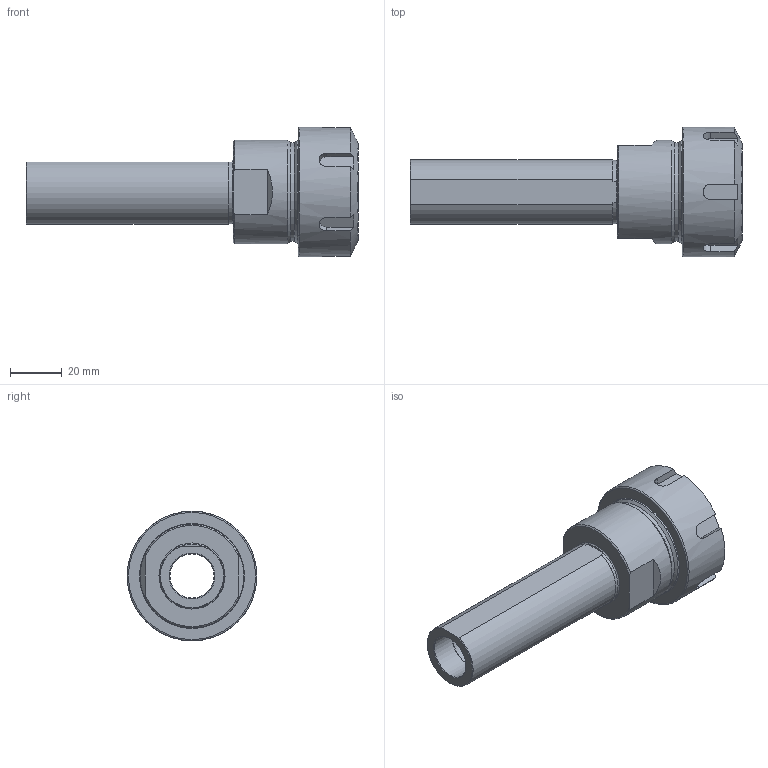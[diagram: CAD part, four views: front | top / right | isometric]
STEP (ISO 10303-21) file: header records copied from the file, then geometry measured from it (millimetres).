
FILE_DESCRIPTION(/* description */ (''),/* implementation_level */ '2;1');
FILE_NAME(/* name */ 'SL25-ER32-80L.stp',/* time_stamp */ '2025-12-25T14:56:22+03:00',/* author */ ('User'),/* organization */ (''),/* preprocessor_version */ 'ST-DEVELOPER v19.2',/* originating_system */ 'Autodesk Inventor 2024',/* authorisation */ '');
FILE_SCHEMA (('AUTOMOTIVE_DESIGN { 1 0 10303 214 3 1 1 }'));
Length unit declared in the file: millimetre
Products named in the file (3): SL32-ER32-80L; C25-ER25UM-100; ER25-M
Assembly tree (2 placements, depth 2):
  SL32-ER32-80L
    C25-ER25UM-100
    ER25-M
Bounding box: 128 x 50 x 50 mm (x, y, z)
Volume: 66886.3 mm3; surface area: 30162.6 mm2
Topology: 2 solids, 2 shells, 69 faces, 174 edges, 115 vertices
Faces by surface type: plane 34, cylinder 18, cone 14, torus 3
Full cylindrical faces by diameter (mm): 17 x1, 17.2 x1, 25 x1, 31 x1, 38 x1, 38.5 x2, 40 x2, 50 x1
Entity records: 2337 total; most frequent: CARTESIAN_POINT 525, ORIENTED_EDGE 348, DIRECTION 348, EDGE_CURVE 174, AXIS2_PLACEMENT_3D 139, VERTEX_POINT 115, EDGE_LOOP 79, LINE 70
